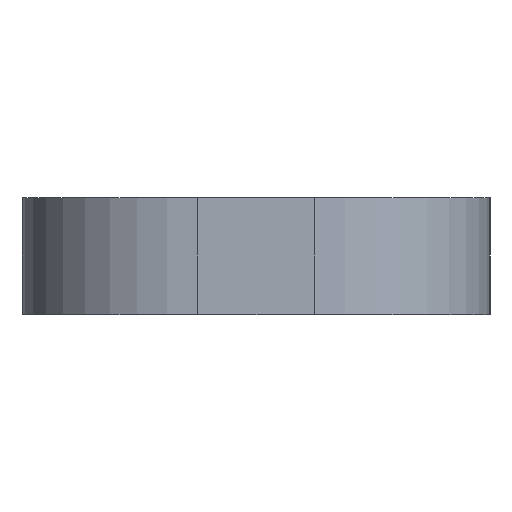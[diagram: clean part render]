
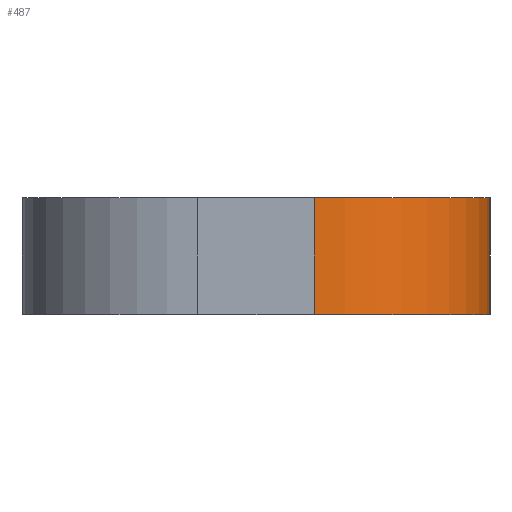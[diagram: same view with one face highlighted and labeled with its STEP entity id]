
A CAD part, left-side view. The second image highlights one B-rep face of the part: STEP entity #487.
In plain terms, the highlighted cylindrical face has radius 3 mm (diameter 6 mm), a partial arc.
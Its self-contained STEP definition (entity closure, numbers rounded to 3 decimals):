
#63=FACE_OUTER_BOUND('',#103,.T.);
#103=EDGE_LOOP('',(#443,#444,#445,#446));
#135=LINE('',#824,#173);
#138=LINE('',#828,#176);
#173=VECTOR('',#678,1000.);
#176=VECTOR('',#683,1000.);
#200=CIRCLE('',#540,3.);
#204=CIRCLE('',#545,3.);
#229=VERTEX_POINT('',#764);
#236=VERTEX_POINT('',#777);
#244=VERTEX_POINT('',#796);
#245=VERTEX_POINT('',#798);
#286=EDGE_CURVE('',#236,#229,#200,.T.);
#296=EDGE_CURVE('',#244,#245,#204,.T.);
#311=EDGE_CURVE('',#245,#236,#135,.T.);
#314=EDGE_CURVE('',#229,#244,#138,.T.);
#443=ORIENTED_EDGE('',*,*,#286,.F.);
#444=ORIENTED_EDGE('',*,*,#311,.F.);
#445=ORIENTED_EDGE('',*,*,#296,.F.);
#446=ORIENTED_EDGE('',*,*,#314,.F.);
#463=CYLINDRICAL_SURFACE('',#562,3.);
#487=ADVANCED_FACE('',(#63),#463,.T.);
#540=AXIS2_PLACEMENT_3D('',#779,#636,#637);
#545=AXIS2_PLACEMENT_3D('',#799,#652,#653);
#562=AXIS2_PLACEMENT_3D('',#841,#704,#705);
#636=DIRECTION('center_axis',(0.,0.,1.));
#637=DIRECTION('ref_axis',(1.,0.,0.));
#652=DIRECTION('center_axis',(0.,0.,-1.));
#653=DIRECTION('ref_axis',(1.,0.,0.));
#678=DIRECTION('',(0.,0.,1.));
#683=DIRECTION('',(0.,0.,-1.));
#704=DIRECTION('center_axis',(0.,0.,-1.));
#705=DIRECTION('ref_axis',(-1.,0.,0.));
#764=CARTESIAN_POINT('',(-27.,-4.,2.));
#777=CARTESIAN_POINT('',(-30.,-1.,2.));
#779=CARTESIAN_POINT('Origin',(-27.,-1.,2.));
#796=CARTESIAN_POINT('',(-27.,-4.,0.));
#798=CARTESIAN_POINT('',(-30.,-1.,0.));
#799=CARTESIAN_POINT('Origin',(-27.,-1.,0.));
#824=CARTESIAN_POINT('',(-30.,-1.,2.));
#828=CARTESIAN_POINT('',(-27.,-4.,2.));
#841=CARTESIAN_POINT('Origin',(-27.,-1.,2.));
